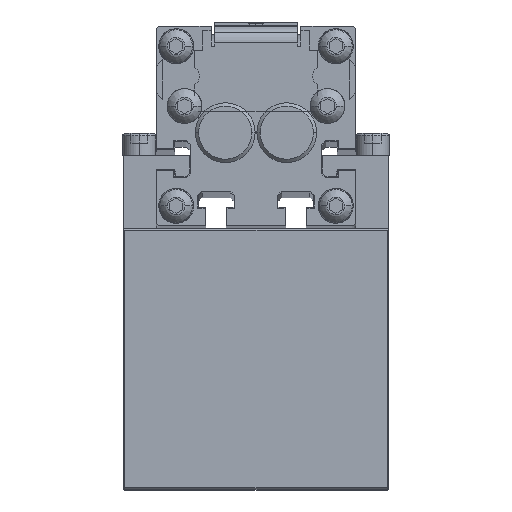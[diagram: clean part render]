
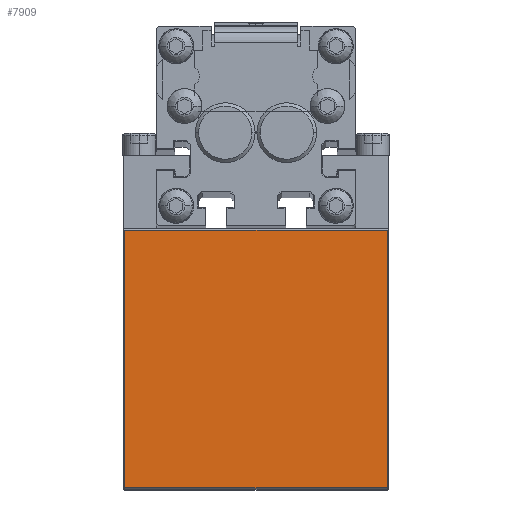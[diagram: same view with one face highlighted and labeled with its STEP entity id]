
A CAD part, top view. The second image highlights one B-rep face of the part: STEP entity #7909.
In plain terms, the highlighted planar face has unit normal (0, 0, 1) as drawn and (0, 0, -1) by its records, which use the part's own axes.
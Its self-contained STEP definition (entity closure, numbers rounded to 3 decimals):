
#1025 = DIRECTION ( 'NONE',  ( 0., 1., 0. ) ) ;
#3135 = LINE ( 'NONE', #8263, #8978 ) ;
#3422 = EDGE_CURVE ( 'NONE', #16544, #7720, #8924, .T. ) ;
#3816 = VECTOR ( 'NONE', #5320, 1000. ) ;
#4375 = AXIS2_PLACEMENT_3D ( 'NONE', #17539, #14067, #8910 ) ;
#4411 = LINE ( 'NONE', #15944, #11162 ) ;
#4576 = CARTESIAN_POINT ( 'NONE',  ( 0.5, 0.5, -65. ) ) ;
#4719 = VERTEX_POINT ( 'NONE', #6430 ) ;
#5320 = DIRECTION ( 'NONE',  ( 0., -1., 0. ) ) ;
#5648 = VECTOR ( 'NONE', #15879, 1000. ) ;
#6430 = CARTESIAN_POINT ( 'NONE',  ( 0.5, 77.95, -65. ) ) ;
#6563 = ORIENTED_EDGE ( 'NONE', *, *, #13673, .T. ) ;
#6806 = ORIENTED_EDGE ( 'NONE', *, *, #17236, .T. ) ;
#7220 = CARTESIAN_POINT ( 'NONE',  ( 79.5, 0., -65. ) ) ;
#7242 = PLANE ( 'NONE',  #4375 ) ;
#7720 = VERTEX_POINT ( 'NONE', #4576 ) ;
#7909 = ADVANCED_FACE ( 'NONE', ( #21122 ), #7242, .F. ) ;
#8263 = CARTESIAN_POINT ( 'NONE',  ( 80., 77.95, -65. ) ) ;
#8910 = DIRECTION ( 'NONE',  ( 0., -1., 0. ) ) ;
#8924 = LINE ( 'NONE', #19343, #5648 ) ;
#8978 = VECTOR ( 'NONE', #15106, 1000. ) ;
#9558 = CARTESIAN_POINT ( 'NONE',  ( 79.5, 0.5, -65. ) ) ;
#10357 = LINE ( 'NONE', #7220, #3816 ) ;
#11162 = VECTOR ( 'NONE', #1025, 1000. ) ;
#12057 = CARTESIAN_POINT ( 'NONE',  ( 79.5, 77.95, -65. ) ) ;
#13669 = VERTEX_POINT ( 'NONE', #12057 ) ;
#13673 = EDGE_CURVE ( 'NONE', #13669, #16544, #10357, .T. ) ;
#14067 = DIRECTION ( 'NONE',  ( 0., 0., 1. ) ) ;
#14764 = ORIENTED_EDGE ( 'NONE', *, *, #18213, .T. ) ;
#15106 = DIRECTION ( 'NONE',  ( 1., 0., 0. ) ) ;
#15879 = DIRECTION ( 'NONE',  ( -1., 0., 0. ) ) ;
#15944 = CARTESIAN_POINT ( 'NONE',  ( 0.5, 0., -65. ) ) ;
#16544 = VERTEX_POINT ( 'NONE', #9558 ) ;
#17236 = EDGE_CURVE ( 'NONE', #4719, #13669, #3135, .T. ) ;
#17539 = CARTESIAN_POINT ( 'NONE',  ( 80., 0., -65. ) ) ;
#18213 = EDGE_CURVE ( 'NONE', #7720, #4719, #4411, .T. ) ;
#18351 = ORIENTED_EDGE ( 'NONE', *, *, #3422, .T. ) ;
#19343 = CARTESIAN_POINT ( 'NONE',  ( 0., 0.5, -65. ) ) ;
#21009 = EDGE_LOOP ( 'NONE', ( #6563, #18351, #14764, #6806 ) ) ;
#21122 = FACE_OUTER_BOUND ( 'NONE', #21009, .T. ) ;
